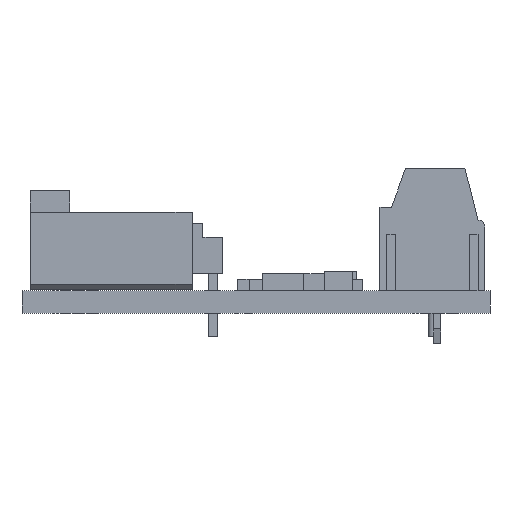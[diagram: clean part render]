
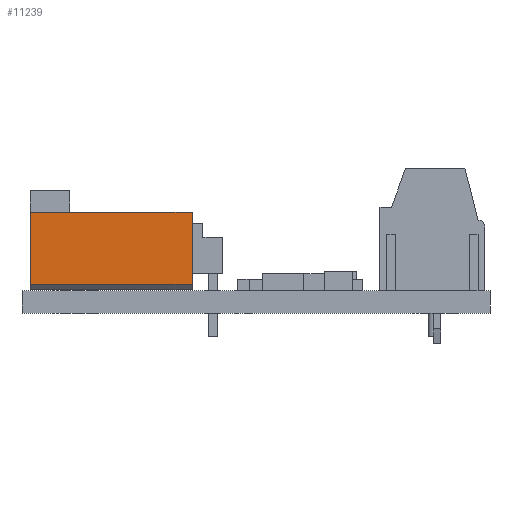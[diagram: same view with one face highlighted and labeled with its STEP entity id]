
A CAD part, front view. The second image highlights one B-rep face of the part: STEP entity #11239.
In plain terms, the highlighted planar face has unit normal (0, -1, 0) as drawn and (1, 0, 0) by its records, which use the part's own axes.
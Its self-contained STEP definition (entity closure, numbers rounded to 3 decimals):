
#3273 = PLANE('',#3274);
#3274 = AXIS2_PLACEMENT_3D('',#3275,#3276,#3277);
#3275 = CARTESIAN_POINT('',(0.,0.,-5.715));
#3276 = DIRECTION('',(0.,0.,1.));
#3277 = DIRECTION('',(1.,0.,0.));
#3438 = VERTEX_POINT('',#3439);
#3439 = CARTESIAN_POINT('',(5.08,-2.54,-5.715));
#3453 = PLANE('',#3454);
#3454 = AXIS2_PLACEMENT_3D('',#3455,#3456,#3457);
#3455 = CARTESIAN_POINT('',(-5.08,-2.54,-5.715));
#3456 = DIRECTION('',(0.,-1.,0.));
#3457 = DIRECTION('',(1.,0.,0.));
#3465 = EDGE_CURVE('',#3438,#3466,#3468,.T.);
#3466 = VERTEX_POINT('',#3467);
#3467 = CARTESIAN_POINT('',(5.08,2.54,-5.715));
#3468 = SURFACE_CURVE('',#3469,(#3473,#3480),.PCURVE_S1.);
#3469 = LINE('',#3470,#3471);
#3470 = CARTESIAN_POINT('',(5.08,-2.54,-5.715));
#3471 = VECTOR('',#3472,1.);
#3472 = DIRECTION('',(0.,1.,0.));
#3473 = PCURVE('',#3273,#3474);
#3474 = DEFINITIONAL_REPRESENTATION('',(#3475),#3479);
#3475 = LINE('',#3476,#3477);
#3476 = CARTESIAN_POINT('',(5.08,-2.54));
#3477 = VECTOR('',#3478,1.);
#3478 = DIRECTION('',(0.,1.));
#3479 = ( GEOMETRIC_REPRESENTATION_CONTEXT(2) 
PARAMETRIC_REPRESENTATION_CONTEXT() REPRESENTATION_CONTEXT('2D SPACE',''
  ) );
#3480 = PCURVE('',#3481,#3486);
#3481 = PLANE('',#3482);
#3482 = AXIS2_PLACEMENT_3D('',#3483,#3484,#3485);
#3483 = CARTESIAN_POINT('',(5.08,-2.54,-5.715));
#3484 = DIRECTION('',(1.,0.,0.));
#3485 = DIRECTION('',(0.,1.,0.));
#3486 = DEFINITIONAL_REPRESENTATION('',(#3487),#3491);
#3487 = LINE('',#3488,#3489);
#3488 = CARTESIAN_POINT('',(0.,0.));
#3489 = VECTOR('',#3490,1.);
#3490 = DIRECTION('',(1.,0.));
#3491 = ( GEOMETRIC_REPRESENTATION_CONTEXT(2) 
PARAMETRIC_REPRESENTATION_CONTEXT() REPRESENTATION_CONTEXT('2D SPACE',''
  ) );
#3509 = PLANE('',#3510);
#3510 = AXIS2_PLACEMENT_3D('',#3511,#3512,#3513);
#3511 = CARTESIAN_POINT('',(5.08,2.54,-5.715));
#3512 = DIRECTION('',(0.,1.,0.));
#3513 = DIRECTION('',(-1.,0.,0.));
#3688 = VERTEX_POINT('',#3689);
#3689 = CARTESIAN_POINT('',(5.08,-2.54,5.715));
#3703 = PLANE('',#3704);
#3704 = AXIS2_PLACEMENT_3D('',#3705,#3706,#3707);
#3705 = CARTESIAN_POINT('',(0.,0.,5.715));
#3706 = DIRECTION('',(0.,0.,1.));
#3707 = DIRECTION('',(1.,0.,0.));
#3715 = EDGE_CURVE('',#3438,#3688,#3716,.T.);
#3716 = SURFACE_CURVE('',#3717,(#3721,#3728),.PCURVE_S1.);
#3717 = LINE('',#3718,#3719);
#3718 = CARTESIAN_POINT('',(5.08,-2.54,-5.715));
#3719 = VECTOR('',#3720,1.);
#3720 = DIRECTION('',(0.,0.,1.));
#3721 = PCURVE('',#3453,#3722);
#3722 = DEFINITIONAL_REPRESENTATION('',(#3723),#3727);
#3723 = LINE('',#3724,#3725);
#3724 = CARTESIAN_POINT('',(10.16,0.));
#3725 = VECTOR('',#3726,1.);
#3726 = DIRECTION('',(0.,1.));
#3727 = ( GEOMETRIC_REPRESENTATION_CONTEXT(2) 
PARAMETRIC_REPRESENTATION_CONTEXT() REPRESENTATION_CONTEXT('2D SPACE',''
  ) );
#3728 = PCURVE('',#3481,#3729);
#3729 = DEFINITIONAL_REPRESENTATION('',(#3730),#3734);
#3730 = LINE('',#3731,#3732);
#3731 = CARTESIAN_POINT('',(0.,0.));
#3732 = VECTOR('',#3733,1.);
#3733 = DIRECTION('',(0.,1.));
#3734 = ( GEOMETRIC_REPRESENTATION_CONTEXT(2) 
PARAMETRIC_REPRESENTATION_CONTEXT() REPRESENTATION_CONTEXT('2D SPACE',''
  ) );
#4538 = VERTEX_POINT('',#4539);
#4539 = CARTESIAN_POINT('',(5.08,2.54,5.715));
#4560 = EDGE_CURVE('',#3688,#4538,#4561,.T.);
#4561 = SURFACE_CURVE('',#4562,(#4566,#4573),.PCURVE_S1.);
#4562 = LINE('',#4563,#4564);
#4563 = CARTESIAN_POINT('',(5.08,-2.54,5.715));
#4564 = VECTOR('',#4565,1.);
#4565 = DIRECTION('',(0.,1.,0.));
#4566 = PCURVE('',#3703,#4567);
#4567 = DEFINITIONAL_REPRESENTATION('',(#4568),#4572);
#4568 = LINE('',#4569,#4570);
#4569 = CARTESIAN_POINT('',(5.08,-2.54));
#4570 = VECTOR('',#4571,1.);
#4571 = DIRECTION('',(0.,1.));
#4572 = ( GEOMETRIC_REPRESENTATION_CONTEXT(2) 
PARAMETRIC_REPRESENTATION_CONTEXT() REPRESENTATION_CONTEXT('2D SPACE',''
  ) );
#4573 = PCURVE('',#3481,#4574);
#4574 = DEFINITIONAL_REPRESENTATION('',(#4575),#4579);
#4575 = LINE('',#4576,#4577);
#4576 = CARTESIAN_POINT('',(0.,11.43));
#4577 = VECTOR('',#4578,1.);
#4578 = DIRECTION('',(1.,0.));
#4579 = ( GEOMETRIC_REPRESENTATION_CONTEXT(2) 
PARAMETRIC_REPRESENTATION_CONTEXT() REPRESENTATION_CONTEXT('2D SPACE',''
  ) );
#10107 = EDGE_CURVE('',#3466,#4538,#10108,.T.);
#10108 = SURFACE_CURVE('',#10109,(#10113,#10120),.PCURVE_S1.);
#10109 = LINE('',#10110,#10111);
#10110 = CARTESIAN_POINT('',(5.08,2.54,-5.715));
#10111 = VECTOR('',#10112,1.);
#10112 = DIRECTION('',(0.,0.,1.));
#10113 = PCURVE('',#3509,#10114);
#10114 = DEFINITIONAL_REPRESENTATION('',(#10115),#10119);
#10115 = LINE('',#10116,#10117);
#10116 = CARTESIAN_POINT('',(0.,0.));
#10117 = VECTOR('',#10118,1.);
#10118 = DIRECTION('',(0.,1.));
#10119 = ( GEOMETRIC_REPRESENTATION_CONTEXT(2) 
PARAMETRIC_REPRESENTATION_CONTEXT() REPRESENTATION_CONTEXT('2D SPACE',''
  ) );
#10120 = PCURVE('',#3481,#10121);
#10121 = DEFINITIONAL_REPRESENTATION('',(#10122),#10126);
#10122 = LINE('',#10123,#10124);
#10123 = CARTESIAN_POINT('',(5.08,0.));
#10124 = VECTOR('',#10125,1.);
#10125 = DIRECTION('',(0.,1.));
#10126 = ( GEOMETRIC_REPRESENTATION_CONTEXT(2) 
PARAMETRIC_REPRESENTATION_CONTEXT() REPRESENTATION_CONTEXT('2D SPACE',''
  ) );
#11239 = ADVANCED_FACE('',(#11240),#3481,.T.);
#11240 = FACE_BOUND('',#11241,.F.);
#11241 = EDGE_LOOP('',(#11242,#11243,#11244,#11245));
#11242 = ORIENTED_EDGE('',*,*,#3465,.F.);
#11243 = ORIENTED_EDGE('',*,*,#3715,.T.);
#11244 = ORIENTED_EDGE('',*,*,#4560,.T.);
#11245 = ORIENTED_EDGE('',*,*,#10107,.F.);
